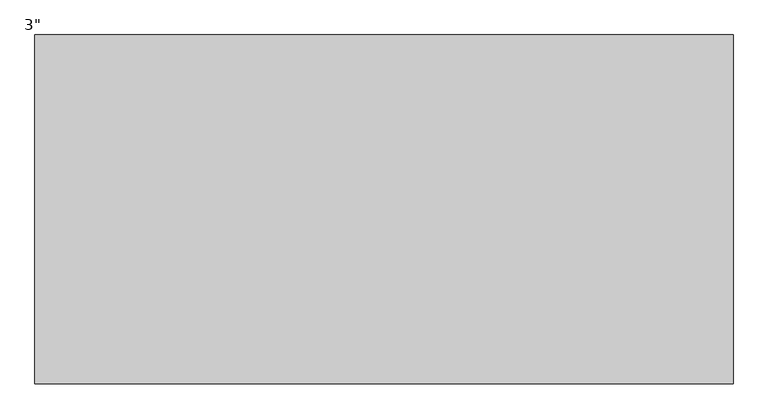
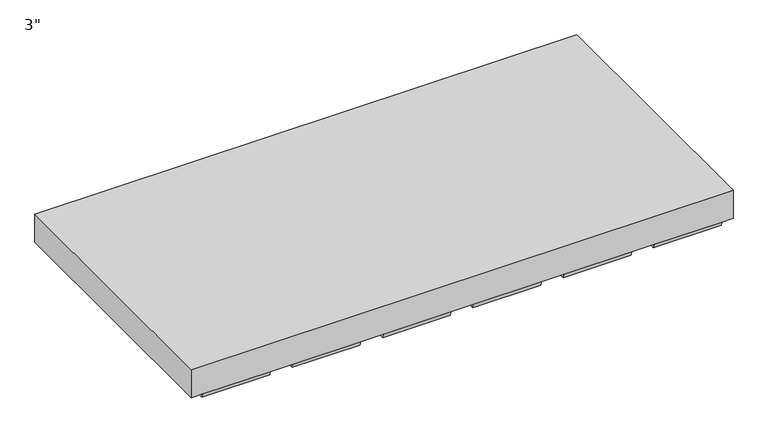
"""IFC4 building model written with IfcOpenShell, lengths in millimetres: proxy geometry."""

import ifcopenshell
import ifcopenshell.guid

model = None  # the IFC model being written
_history = None  # IfcOwnerHistory: only IFC2X3 demands one
_inside = {}  # id of a spatial element -> (the spatial element, [elements in it])
_under = {}  # id of a project, library or spatial element -> (it, [spatial elements below it])
_declared = {}  # id of a project -> (the project, [libraries it declares])
_typed = {}  # id of a type object -> (the type object, [elements of that type])
_made_of = {}  # id of a material, layer set ... -> (it, [elements and type objects made of it])


def new_model(schema):
    """Start an empty IFC model of exactly this schema.

    Asked for "IFC4X3", IfcOpenShell would pick the latest addendum, in which some entities
    have other attributes; the version numbers below select the first issue.
    IFC2X3 requires an IfcOwnerHistory on every rooted entity: one is made here for all.
    """
    global model, _history
    if schema == "IFC4X3":
        model = ifcopenshell.file(schema_version=(4, 3, 0, 0))
    else:
        model = ifcopenshell.file(schema=schema)
    _inside.clear()
    _under.clear()
    _declared.clear()
    _typed.clear()
    _made_of.clear()
    _history = None
    if model.schema == "IFC2X3":
        org = make("IfcOrganization", Name="unknown")
        user = make(
            "IfcPersonAndOrganization",
            ThePerson=make("IfcPerson", FamilyName="unknown"),
            TheOrganization=org,
        )
        app = make(
            "IfcApplication",
            ApplicationDeveloper=org,
            Version="unknown",
            ApplicationFullName="unknown",
            ApplicationIdentifier="unknown",
        )
        _history = make(
            "IfcOwnerHistory",
            OwningUser=user,
            OwningApplication=app,
            ChangeAction="ADDED",
            CreationDate=0,
        )
    return model


def make(cls, **values):
    """One entity of the class cls with the attributes given. An attribute that is None is left unset."""
    return model.create_entity(
        cls, **{name: value for name, value in values.items() if value is not None}
    )


def rooted(cls, **values):
    """An entity with a GlobalId (a new one), such as an element, a storey or a relation."""
    return make(cls, GlobalId=ifcopenshell.guid.new(), OwnerHistory=_history, **values)


def si_unit(unit_type, name, prefix=None):
    """IfcSIUnit, for example si_unit("LENGTHUNIT", "METRE", prefix="MILLI")."""
    return make("IfcSIUnit", UnitType=unit_type, Prefix=prefix, Name=name)


def assignment(units):
    """IfcUnitAssignment: the units of a project."""
    return None if units is None else make("IfcUnitAssignment", Units=units)


def point(xyz):
    """IfcCartesianPoint."""
    return None if xyz is None else make("IfcCartesianPoint", Coordinates=xyz)


def direction(xyz):
    """IfcDirection."""
    return None if xyz is None else make("IfcDirection", DirectionRatios=xyz)


def frame(location, z_axis=None, x_axis=None):
    """IfcAxis2Placement3D, a coordinate frame: its origin and axes. An axis left out is left unset."""
    return make(
        "IfcAxis2Placement3D",
        Location=point(location),
        Axis=direction(z_axis),
        RefDirection=direction(x_axis),
    )


def origin():
    """The frame at (0, 0, 0) with its axes left unset."""
    return frame((0.0, 0.0, 0.0))


def place(relative_to, where):
    """IfcLocalPlacement: puts the frame where relative to a parent placement (None: the world)."""
    return make(
        "IfcLocalPlacement", PlacementRelTo=relative_to, RelativePlacement=where
    )


def context(
    kind, dimensions, precision=None, world=None, true_north=None, identifier=None
):
    """IfcGeometricRepresentationContext, for example the 3D "Model" context."""
    return make(
        "IfcGeometricRepresentationContext",
        ContextIdentifier=identifier,
        ContextType=kind,
        CoordinateSpaceDimension=dimensions,
        Precision=precision,
        WorldCoordinateSystem=world,
        TrueNorth=true_north,
    )


def project(units=None, contexts=None):
    """IfcProject with its units and contexts."""
    return rooted(
        "IfcProject",
        Name="project",
        RepresentationContexts=contexts,
        UnitsInContext=assignment(units),
    )


def spatial(cls, under=None, at=None, **own):
    """A site, building, storey or space (cls), placed at a placement, below another one or the project."""
    s = rooted(cls, ObjectPlacement=at, **own)
    if under is not None:
        _under.setdefault(under.id(), (under, []))[1].append(s)
    return s


def faces_of(points, faces, orient=None, outer=None):
    """IfcFace entities. A face is a list of loops; a loop is a list of indices into points, from 0.

    orient and outer hold one flag for each loop. By default every Orientation is true, the
    first loop of a face is its IfcFaceOuterBound and the others are IfcFaceBound.
    """
    made = []
    for i, loops in enumerate(faces):
        bounds = []
        for j, loop in enumerate(loops):
            is_outer = j == 0 if outer is None else outer[i][j]
            bounds.append(
                make(
                    "IfcFaceOuterBound" if is_outer else "IfcFaceBound",
                    Bound=make("IfcPolyLoop", Polygon=[points[k] for k in loop]),
                    Orientation=True if orient is None else orient[i][j],
                )
            )
        made.append(make("IfcFace", Bounds=bounds))
    return made


def faceted_brep(points, faces, orient=None, outer=None, voids=None):
    """IfcFacetedBrep: a solid bounded by flat faces; with voids (closed shells), ...WithVoids."""
    shared = [point(p) for p in points]
    hull = make("IfcClosedShell", CfsFaces=faces_of(shared, faces, orient, outer))
    if voids is None:
        return make("IfcFacetedBrep", Outer=hull)
    return make(
        "IfcFacetedBrepWithVoids",
        Outer=hull,
        Voids=[
            make(cls, CfsFaces=faces_of(shared, fs, o, b)) for cls, fs, o, b in voids
        ],
    )


def shape(context_of_items, identifier, shape_type, items):
    """IfcShapeRepresentation: the items that make up one representation, for example the "Body"."""
    return make(
        "IfcShapeRepresentation",
        ContextOfItems=context_of_items,
        RepresentationIdentifier=identifier,
        RepresentationType=shape_type,
        Items=items,
    )


def source(mapping_origin, context_of_items, identifier, shape_type, items):
    """IfcRepresentationMap: a shape defined once, which mapped items show again and again."""
    return make(
        "IfcRepresentationMap",
        MappingOrigin=mapping_origin,
        MappedRepresentation=shape(context_of_items, identifier, shape_type, items),
    )


def transform(
    local_origin,
    x_axis=None,
    y_axis=None,
    z_axis=None,
    scale=None,
    scale2=None,
    scale3=None,
    uniform=True,
):
    """IfcCartesianTransformationOperator3D, or its non-uniform kind. x_axis, y_axis, z_axis: its Axis1, 2, 3."""
    if uniform:
        return make(
            "IfcCartesianTransformationOperator3D",
            Axis1=direction(x_axis),
            Axis2=direction(y_axis),
            LocalOrigin=point(local_origin),
            Scale=scale,
            Axis3=direction(z_axis),
        )
    return make(
        "IfcCartesianTransformationOperator3DnonUniform",
        Axis1=direction(x_axis),
        Axis2=direction(y_axis),
        LocalOrigin=point(local_origin),
        Scale=scale,
        Axis3=direction(z_axis),
        Scale2=scale2,
        Scale3=scale3,
    )


def mapped(mapping_source, mapping_target):
    """IfcMappedItem: shows the shape of a source again, moved by a transform."""
    return make(
        "IfcMappedItem", MappingSource=mapping_source, MappingTarget=mapping_target
    )


def made_of(thing, what):
    """Note that an element or type object is made of a material, layer set ...; save() writes the relation."""
    if what is not None:
        _made_of.setdefault(what.id(), (what, []))[1].append(thing)
    return thing


def element(
    cls,
    number,
    at=None,
    inside=None,
    cuts=None,
    type_object=None,
    material=None,
    context=None,
    identifier="Body",
    shape_type=None,
    held_by="IfcProductDefinitionShape",
    body=None,
    shapes=None,
    **own,
):
    """One element of the class cls, such as IfcWall. Its Tag is "e" and its number.

    at: its placement. inside: the storey or other place that contains it. cuts: it is an
    opening in that element (IfcRelVoidsElement). A single representation is given by context,
    identifier, shape_type and body (its items); several are given by shapes. held_by: the class
    of the entity that holds the representations. save() writes the other relations.
    """
    e = rooted(cls, Tag="e%d" % number, ObjectPlacement=at, **own)
    if body is not None:
        shapes = [shape(context, identifier, shape_type, body)]
    if shapes is not None:
        e.Representation = make(held_by, Representations=shapes)
    if inside is not None:
        _inside.setdefault(inside.id(), (inside, []))[1].append(e)
    if cuts is not None:
        rooted(
            "IfcRelVoidsElement", RelatingBuildingElement=cuts, RelatedOpeningElement=e
        )
    if type_object is not None:
        _typed.setdefault(type_object.id(), (type_object, []))[1].append(e)
    return made_of(e, material)


def aggregate(whole, parts):
    """IfcRelAggregates: a whole, such as a stair, and the parts it consists of."""
    return rooted("IfcRelAggregates", RelatingObject=whole, RelatedObjects=parts)


def save(model, path):
    """Write the relations noted so far, then the file.

    IfcRelAggregates (storeys below a building ...), IfcRelContainedInSpatialStructure (elements
    in a storey), IfcRelDefinesByType, IfcRelAssociatesMaterial and IfcRelDeclares: one each for
    every whole, place, type object, material and project.
    """
    for whole, parts in _under.values():
        aggregate(whole, parts)
    for where, things in _inside.values():
        rooted(
            "IfcRelContainedInSpatialStructure",
            RelatedElements=things,
            RelatingStructure=where,
        )
    for kind, things in _typed.values():
        rooted("IfcRelDefinesByType", RelatedObjects=things, RelatingType=kind)
    for what, things in _made_of.values():
        rooted("IfcRelAssociatesMaterial", RelatedObjects=things, RelatingMaterial=what)
    for by, libraries in _declared.values():
        rooted("IfcRelDeclares", RelatingContext=by, RelatedDefinitions=libraries)
    model.write(path)


def proxy_8bbb4755(model_context):
    return source(origin(), model_context, "Body", "Brep", [
        faceted_brep([(177.8, -302.2477839, 0.0), (25.4, -302.2477839, 0.0), (25.4, 302.2477839, 0.0), (177.8, 302.2477839, 0.0), (584.2, -302.2477839, 0.0), (431.8, -302.2477839, 0.0), (431.8, 302.2477839, 0.0), (584.2, 302.2477839, 0.0), (381.0, -302.2477839, 0.0), (228.6, -302.2477839, 0.0), (228.6, 302.2477839, 0.0), (381.0, 302.2477839, 0.0), (-25.4, -302.2477839, 0.0), (-177.8, -302.2477839, 0.0), (-177.8, 302.2477839, 0.0), (-25.4, 302.2477839, 0.0), (-228.6, -302.2477839, 0.0), (-381.0, -302.2477839, 0.0), (-381.0, 302.2477839, 0.0), (-228.6, 302.2477839, 0.0), (-431.8, -302.2477839, 0.0), (-584.2, -302.2477839, 0.0), (-584.2, 302.2477839, 0.0), (-431.8, 302.2477839, 0.0), (431.8, 304.8, 9.525), (431.8, -304.8, 9.525), (584.2, -304.8, 9.525), (584.2, 304.8, 9.525), (-609.6, 304.8, 76.2), (-609.6, -304.8, 76.2), (609.6, -304.8, 76.2), (609.6, 304.8, 76.2), (381.0, -304.8, 9.525), (381.0, 304.8, 9.525), (609.6, -304.8, 9.525), (609.6, 304.8, 9.525), (228.6, 304.8, 9.525), (228.6, -304.8, 9.525), (177.8, -304.8, 9.525), (177.8, 304.8, 9.525), (25.4, 304.8, 9.525), (25.4, -304.8, 9.525), (-25.4, -304.8, 9.525), (-25.4, 304.8, 9.525), (-177.8, 304.8, 9.525), (-177.8, -304.8, 9.525), (-228.6, -304.8, 9.525), (-228.6, 304.8, 9.525), (-381.0, 304.8, 9.525), (-381.0, -304.8, 9.525), (-431.8, -304.8, 9.525), (-431.8, 304.8, 9.525), (-609.6, 304.8, 9.525), (-602.7262256, 304.8, 9.525), (-584.2, 304.8, 9.525), (-584.2, -304.8, 9.525), (-602.7262256, -304.8, 9.525), (-609.6, -304.8, 9.525)], [[[0, 1, 2, 3]], [[4, 5, 6, 7]], [[8, 9, 10, 11]], [[12, 13, 14, 15]], [[16, 17, 18, 19]], [[20, 21, 22, 23]], [[24, 6, 5, 25]], [[26, 4, 7, 27]], [[28, 29, 30, 31]], [[24, 25, 32, 33]], [[34, 26, 27, 35]], [[36, 37, 38, 39]], [[40, 41, 42, 43]], [[44, 45, 46, 47]], [[48, 49, 50, 51]], [[52, 53, 54, 55, 56, 57]], [[30, 34, 35, 31]], [[28, 52, 57, 29]], [[36, 10, 9, 37]], [[32, 8, 11, 33]], [[40, 2, 1, 41]], [[38, 0, 3, 39]], [[44, 14, 13, 45]], [[42, 12, 15, 43]], [[48, 18, 17, 49]], [[46, 16, 19, 47]], [[54, 22, 21, 55]], [[50, 20, 23, 51]], [[31, 35, 27, 24, 33, 36, 39, 40, 43, 44, 47, 48, 51, 54, 53, 52, 28]], [[29, 57, 56, 55, 50, 49, 46, 45, 42, 41, 38, 37, 32, 25, 26, 34, 30]], [[4, 26, 25, 5]], [[8, 32, 37, 9]], [[0, 38, 41, 1]], [[12, 42, 45, 13]], [[16, 46, 49, 17]], [[20, 50, 55, 21]], [[6, 24, 27, 7]], [[10, 36, 33, 11]], [[2, 40, 39, 3]], [[14, 44, 43, 15]], [[18, 48, 47, 19]], [[22, 54, 51, 23]]]),
    ])


if __name__ == "__main__":
    model = new_model("IFC4")
    model_context = context("Model", 3, world=origin())
    ifc_project = project(units=[si_unit("LENGTHUNIT", "METRE", prefix="MILLI")], contexts=[model_context])
    site = spatial("IfcSite", under=ifc_project)
    building = spatial("IfcBuilding", under=site)
    placement = place(None, origin())
    proxy_shape = proxy_8bbb4755(model_context)
    element("IfcBuildingElementProxy", 1, Name="Durabond Generic Model Insulite Select Extruded Insulation Board : 3\"", ObjectType="Durabond Generic Model Insulite Select Extruded Insulation Board : 3\"", at=placement, inside=building, context=model_context, shape_type="MappedRepresentation", body=[
        mapped(proxy_shape, transform((0.0, 0.0, 0.0), x_axis=(1.0, 0.0, 0.0), y_axis=(0.0, 1.0, 0.0), z_axis=(0.0, 0.0, 1.0))),
    ])
    save(model, "model.ifc")
